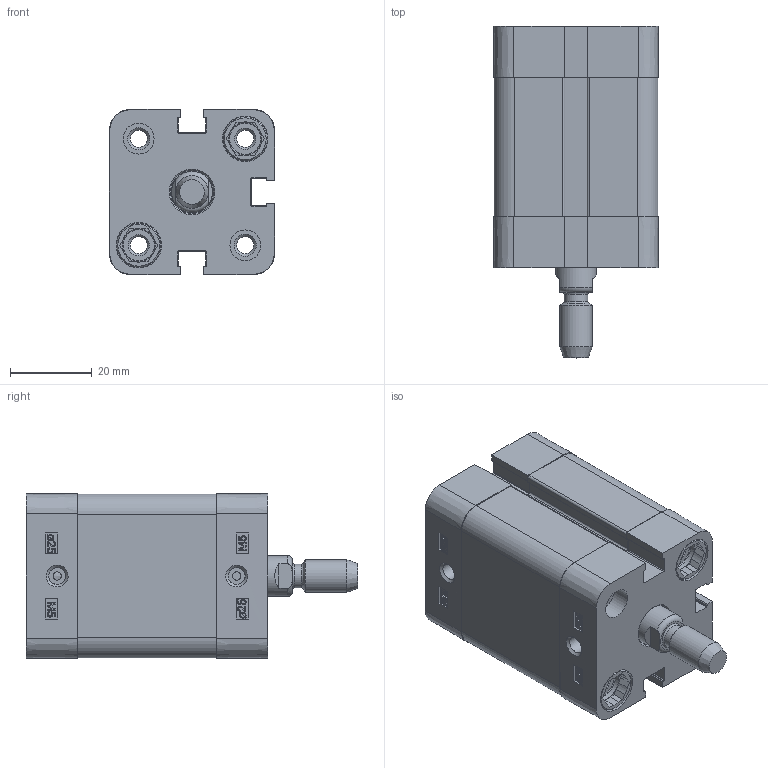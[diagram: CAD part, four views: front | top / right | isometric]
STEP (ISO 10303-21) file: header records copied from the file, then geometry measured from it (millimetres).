
FILE_DESCRIPTION((''),'2;1');
FILE_NAME('T:\Archivio Inventor\- CATALOGHI 2012\SERIE P - NUOVA\PDM\PDM025\PDM025.---.GS.M\PDM025.020.GS.M.stp','2013-01-31T08:05:37',('Administrator'),(''),'Autodesk Inventor 2012','Autodesk Inventor 2012','');
FILE_SCHEMA(('CONFIG_CONTROL_DESIGN'));
Length unit declared in the file: millimetre
Products named in the file (1): PDM025.020.GS.M
Bounding box: 40.3 x 81 x 40.3 mm (x, y, z)
Volume: 57646.6 mm3; surface area: 28390.7 mm2
Topology: 1 solids, 3 shells, 596 faces, 1552 edges, 1017 vertices
Faces by surface type: plane 312, cylinder 130, bspline 92, cone 50, torus 12
Full cylindrical faces by diameter (mm): 2 x2, 4.134 x10, 5.8 x1, 7.5 x4, 7.55 x2, 8 x9, 9 x1, 10 x1, 10.5 x1, 10.8 x4, 11.1 x4, 25 x1, 27.3 x1, 27.5 x1
Entity records: 18782 total; most frequent: CARTESIAN_POINT 4306, ORIENTED_EDGE 2888, DIRECTION 2606, EDGE_CURVE 1444, VERTEX_POINT 1002, VECTOR 898, LINE 898, AXIS2_PLACEMENT_3D 854
